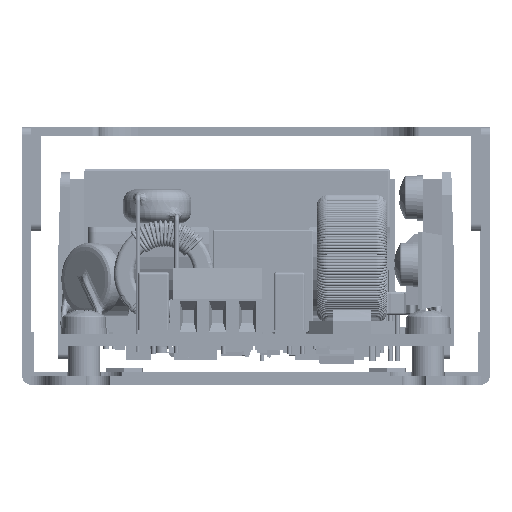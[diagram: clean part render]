
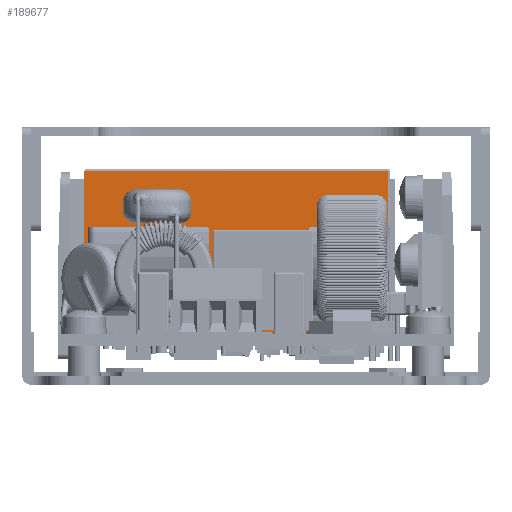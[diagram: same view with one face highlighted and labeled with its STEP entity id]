
A CAD part, left-side view. The second image highlights one B-rep face of the part: STEP entity #189677.
In plain terms, the highlighted planar face has unit normal (-1, 0, 0).
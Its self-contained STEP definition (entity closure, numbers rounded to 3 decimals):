
#2256 = CARTESIAN_POINT ( 'NONE',  ( -27.351, 24.898, 117.315 ) ) ;
#3231 = EDGE_CURVE ( 'NONE', #226083, #138505, #247403, .T. ) ;
#6278 = EDGE_CURVE ( 'NONE', #36354, #395534, #153577, .T. ) ;
#7604 = DIRECTION ( 'NONE',  ( 0., -1., 0. ) ) ;
#13626 = EDGE_CURVE ( 'NONE', #138505, #278587, #301712, .T. ) ;
#18137 = LINE ( 'NONE', #367149, #207624 ) ;
#19719 = DIRECTION ( 'NONE',  ( 0., -1., 0. ) ) ;
#20499 = ORIENTED_EDGE ( 'NONE', *, *, #314336, .T. ) ;
#25548 = EDGE_CURVE ( 'NONE', #486284, #86075, #99456, .T. ) ;
#29027 = VECTOR ( 'NONE', #144205, 1000. ) ;
#34420 = CARTESIAN_POINT ( 'NONE',  ( -27.351, -14.602, 107.165 ) ) ;
#36354 = VERTEX_POINT ( 'NONE', #2256 ) ;
#48512 = CARTESIAN_POINT ( 'NONE',  ( -27.351, 8.548, 96.565 ) ) ;
#57516 = AXIS2_PLACEMENT_3D ( 'NONE', #34420, #299275, #72509 ) ;
#72509 = DIRECTION ( 'NONE',  ( 0., -1., 0. ) ) ;
#77495 = CARTESIAN_POINT ( 'NONE',  ( -27.351, 24.448, 110.165 ) ) ;
#78921 = EDGE_CURVE ( 'NONE', #351679, #486284, #18137, .T. ) ;
#86075 = VERTEX_POINT ( 'NONE', #311134 ) ;
#90051 = AXIS2_PLACEMENT_3D ( 'NONE', #368906, #141974, #406783 ) ;
#91208 = EDGE_CURVE ( 'NONE', #395534, #341896, #311173, .T. ) ;
#99456 = CIRCLE ( 'NONE', #90051, 0.3 ) ;
#100807 = CARTESIAN_POINT ( 'NONE',  ( -27.351, 24.448, 96.865 ) ) ;
#108898 = PLANE ( 'NONE',  #57516 ) ;
#111952 = CARTESIAN_POINT ( 'NONE',  ( -27.351, 8.848, 109.865 ) ) ;
#114941 = ORIENTED_EDGE ( 'NONE', *, *, #6278, .T. ) ;
#124743 = DIRECTION ( 'NONE',  ( 1., 0., 0. ) ) ;
#125546 = EDGE_LOOP ( 'NONE', ( #316989, #297197, #204851, #114941, #218900, #247312, #20499, #193549, #299948, #182975, #180111, #488173, #253433, #131161 ) ) ;
#131161 = ORIENTED_EDGE ( 'NONE', *, *, #3231, .T. ) ;
#133843 = LINE ( 'NONE', #223498, #371007 ) ;
#134102 = FACE_OUTER_BOUND ( 'NONE', #125546, .T. ) ;
#138505 = VERTEX_POINT ( 'NONE', #231898 ) ;
#138937 = DIRECTION ( 'NONE',  ( 0., -1., 0. ) ) ;
#141974 = DIRECTION ( 'NONE',  ( -1., 0., 0. ) ) ;
#143185 = DIRECTION ( 'NONE',  ( 0., 0., -1. ) ) ;
#144205 = DIRECTION ( 'NONE',  ( 0., 0., -1. ) ) ;
#153577 = LINE ( 'NONE', #409055, #29027 ) ;
#154378 = EDGE_CURVE ( 'NONE', #195352, #351679, #383033, .T. ) ;
#162655 = EDGE_CURVE ( 'NONE', #278587, #470426, #459323, .T. ) ;
#174096 = CARTESIAN_POINT ( 'NONE',  ( -27.351, -14.302, 117.315 ) ) ;
#180111 = ORIENTED_EDGE ( 'NONE', *, *, #78921, .T. ) ;
#181145 = CARTESIAN_POINT ( 'NONE',  ( -27.351, -4.152, 96.565 ) ) ;
#181680 = LINE ( 'NONE', #436401, #371435 ) ;
#182975 = ORIENTED_EDGE ( 'NONE', *, *, #154378, .T. ) ;
#185389 = VECTOR ( 'NONE', #257460, 1000. ) ;
#186003 = VECTOR ( 'NONE', #396732, 1000. ) ;
#189677 = ADVANCED_FACE ( 'NONE', ( #134102 ), #108898, .T. ) ;
#190865 = EDGE_CURVE ( 'NONE', #470426, #36354, #476372, .T. ) ;
#193549 = ORIENTED_EDGE ( 'NONE', *, *, #278485, .T. ) ;
#195352 = VERTEX_POINT ( 'NONE', #390737 ) ;
#197265 = LINE ( 'NONE', #181145, #185389 ) ;
#199611 = LINE ( 'NONE', #217631, #288628 ) ;
#200857 = VECTOR ( 'NONE', #291001, 1000. ) ;
#202165 = VERTEX_POINT ( 'NONE', #335723 ) ;
#204851 = ORIENTED_EDGE ( 'NONE', *, *, #190865, .T. ) ;
#207624 = VECTOR ( 'NONE', #329052, 1000. ) ;
#213077 = CARTESIAN_POINT ( 'NONE',  ( -27.351, -4.152, 110.165 ) ) ;
#217631 = CARTESIAN_POINT ( 'NONE',  ( -27.351, 8.848, 110.165 ) ) ;
#217829 = CARTESIAN_POINT ( 'NONE',  ( -27.351, -14.302, 117.615 ) ) ;
#218900 = ORIENTED_EDGE ( 'NONE', *, *, #91208, .T. ) ;
#223498 = CARTESIAN_POINT ( 'NONE',  ( -27.351, 24.448, 110.165 ) ) ;
#226083 = VERTEX_POINT ( 'NONE', #292432 ) ;
#226098 = CARTESIAN_POINT ( 'NONE',  ( -27.351, 24.898, 96.865 ) ) ;
#231898 = CARTESIAN_POINT ( 'NONE',  ( -27.351, -4.452, 110.165 ) ) ;
#234409 = DIRECTION ( 'NONE',  ( 1., 0., 0. ) ) ;
#246574 = DIRECTION ( 'NONE',  ( -1., 0., 0. ) ) ;
#247312 = ORIENTED_EDGE ( 'NONE', *, *, #348607, .T. ) ;
#247403 = CIRCLE ( 'NONE', #357140, 0.3 ) ;
#247695 = DIRECTION ( 'NONE',  ( 0., 0., 1. ) ) ;
#253433 = ORIENTED_EDGE ( 'NONE', *, *, #415887, .T. ) ;
#257460 = DIRECTION ( 'NONE',  ( 0., 0., 1. ) ) ;
#261619 = VERTEX_POINT ( 'NONE', #111952 ) ;
#263031 = AXIS2_PLACEMENT_3D ( 'NONE', #351636, #124743, #389687 ) ;
#277835 = CIRCLE ( 'NONE', #263031, 0.3 ) ;
#278485 = EDGE_CURVE ( 'NONE', #202165, #261619, #277835, .T. ) ;
#278587 = VERTEX_POINT ( 'NONE', #356595 ) ;
#288628 = VECTOR ( 'NONE', #143185, 1000. ) ;
#291001 = DIRECTION ( 'NONE',  ( 0., -1., 0. ) ) ;
#292432 = CARTESIAN_POINT ( 'NONE',  ( -27.351, -4.152, 109.865 ) ) ;
#297197 = ORIENTED_EDGE ( 'NONE', *, *, #162655, .T. ) ;
#299275 = DIRECTION ( 'NONE',  ( -1., 0., 0. ) ) ;
#299948 = ORIENTED_EDGE ( 'NONE', *, *, #345928, .T. ) ;
#301712 = LINE ( 'NONE', #213077, #200857 ) ;
#310520 = CARTESIAN_POINT ( 'NONE',  ( -27.351, 24.448, 96.865 ) ) ;
#311134 = CARTESIAN_POINT ( 'NONE',  ( -27.351, -4.152, 96.865 ) ) ;
#311173 = LINE ( 'NONE', #100807, #488706 ) ;
#314336 = EDGE_CURVE ( 'NONE', #425688, #202165, #133843, .T. ) ;
#316989 = ORIENTED_EDGE ( 'NONE', *, *, #13626, .T. ) ;
#329052 = DIRECTION ( 'NONE',  ( 0., -1., 0. ) ) ;
#335723 = CARTESIAN_POINT ( 'NONE',  ( -27.351, 9.148, 110.165 ) ) ;
#341896 = VERTEX_POINT ( 'NONE', #310520 ) ;
#345928 = EDGE_CURVE ( 'NONE', #261619, #195352, #199611, .T. ) ;
#348607 = EDGE_CURVE ( 'NONE', #341896, #425688, #181680, .T. ) ;
#351636 = CARTESIAN_POINT ( 'NONE',  ( -27.351, 9.148, 109.865 ) ) ;
#351679 = VERTEX_POINT ( 'NONE', #48512 ) ;
#356595 = CARTESIAN_POINT ( 'NONE',  ( -27.351, -14.302, 110.165 ) ) ;
#357140 = AXIS2_PLACEMENT_3D ( 'NONE', #461207, #234409, #7604 ) ;
#360398 = CARTESIAN_POINT ( 'NONE',  ( -27.351, -14.602, 117.315 ) ) ;
#367149 = CARTESIAN_POINT ( 'NONE',  ( -27.351, 8.848, 96.565 ) ) ;
#368906 = CARTESIAN_POINT ( 'NONE',  ( -27.351, -3.852, 96.865 ) ) ;
#370288 = DIRECTION ( 'NONE',  ( 0., 0., 1. ) ) ;
#371007 = VECTOR ( 'NONE', #450380, 1000. ) ;
#371435 = VECTOR ( 'NONE', #247695, 1000. ) ;
#372873 = CARTESIAN_POINT ( 'NONE',  ( -27.351, -3.852, 96.565 ) ) ;
#383033 = CIRCLE ( 'NONE', #457270, 0.3 ) ;
#389687 = DIRECTION ( 'NONE',  ( 0., -1., 0. ) ) ;
#390737 = CARTESIAN_POINT ( 'NONE',  ( -27.351, 8.848, 96.865 ) ) ;
#395534 = VERTEX_POINT ( 'NONE', #226098 ) ;
#396732 = DIRECTION ( 'NONE',  ( 0., 1., 0. ) ) ;
#406783 = DIRECTION ( 'NONE',  ( 0., -1., 0. ) ) ;
#409055 = CARTESIAN_POINT ( 'NONE',  ( -27.351, 24.898, 117.615 ) ) ;
#415887 = EDGE_CURVE ( 'NONE', #86075, #226083, #197265, .T. ) ;
#425688 = VERTEX_POINT ( 'NONE', #77495 ) ;
#435536 = VECTOR ( 'NONE', #370288, 1000. ) ;
#436401 = CARTESIAN_POINT ( 'NONE',  ( -27.351, 24.448, 96.565 ) ) ;
#450380 = DIRECTION ( 'NONE',  ( 0., -1., 0. ) ) ;
#457270 = AXIS2_PLACEMENT_3D ( 'NONE', #473383, #246574, #19719 ) ;
#459323 = LINE ( 'NONE', #217829, #435536 ) ;
#461207 = CARTESIAN_POINT ( 'NONE',  ( -27.351, -4.452, 109.865 ) ) ;
#470426 = VERTEX_POINT ( 'NONE', #174096 ) ;
#473383 = CARTESIAN_POINT ( 'NONE',  ( -27.351, 8.548, 96.865 ) ) ;
#476372 = LINE ( 'NONE', #360398, #186003 ) ;
#486284 = VERTEX_POINT ( 'NONE', #372873 ) ;
#488173 = ORIENTED_EDGE ( 'NONE', *, *, #25548, .T. ) ;
#488706 = VECTOR ( 'NONE', #138937, 1000. ) ;
